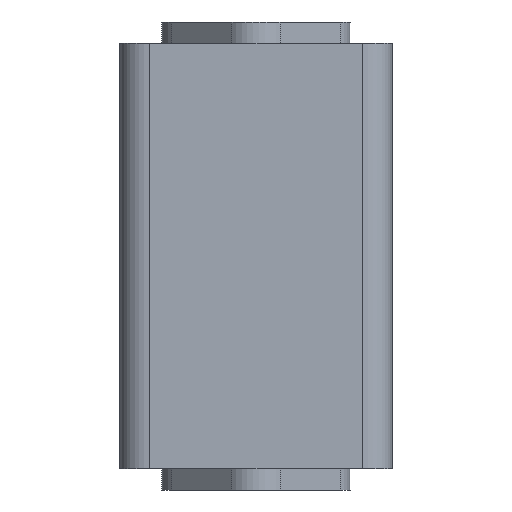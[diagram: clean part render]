
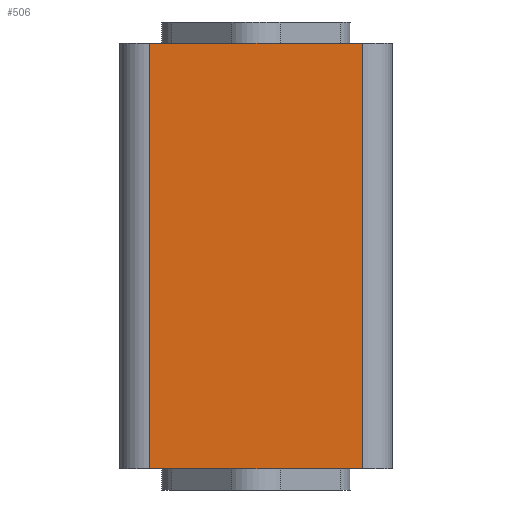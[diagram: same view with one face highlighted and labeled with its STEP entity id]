
A CAD part, front view. The second image highlights one B-rep face of the part: STEP entity #506.
In plain terms, the highlighted planar face has unit normal (0, -1, 0).
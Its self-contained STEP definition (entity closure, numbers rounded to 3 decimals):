
#448=CARTESIAN_POINT('',(12.5,-16.,50.0));
#449=VERTEX_POINT('',#448);
#457=CARTESIAN_POINT('',(12.5,-16.,0.0));
#458=VERTEX_POINT('',#457);
#459=CARTESIAN_POINT('',(12.5,-16.,0.0));
#460=DIRECTION('',(0.0,0.0,1.0));
#461=VECTOR('',#460,50.0);
#462=LINE('',#459,#461);
#463=EDGE_CURVE('',#458,#449,#462,.T.);
#476=CARTESIAN_POINT('',(12.5,-16.,0.0));
#477=DIRECTION('',(0.0,-1.0,0.0));
#478=DIRECTION('',(0.0,0.0,-1.0));
#479=AXIS2_PLACEMENT_3D('',#476,#477,#478);
#480=PLANE('',#479);
#481=CARTESIAN_POINT('',(-12.5,-16.,50.0));
#482=VERTEX_POINT('',#481);
#483=CARTESIAN_POINT('',(12.5,-16.,50.0));
#484=DIRECTION('',(-1.0,0.0,0.0));
#485=VECTOR('',#484,25.);
#486=LINE('',#483,#485);
#487=EDGE_CURVE('',#449,#482,#486,.T.);
#488=ORIENTED_EDGE('',*,*,#487,.T.);
#489=CARTESIAN_POINT('',(-12.5,-16.,0.0));
#490=VERTEX_POINT('',#489);
#491=CARTESIAN_POINT('',(-12.5,-16.,0.0));
#492=DIRECTION('',(0.0,0.0,1.0));
#493=VECTOR('',#492,50.0);
#494=LINE('',#491,#493);
#495=EDGE_CURVE('',#490,#482,#494,.T.);
#496=ORIENTED_EDGE('',*,*,#495,.F.);
#497=CARTESIAN_POINT('',(-12.5,-16.,0.0));
#498=DIRECTION('',(1.0,0.0,0.0));
#499=VECTOR('',#498,25.);
#500=LINE('',#497,#499);
#501=EDGE_CURVE('',#490,#458,#500,.T.);
#502=ORIENTED_EDGE('',*,*,#501,.T.);
#503=ORIENTED_EDGE('',*,*,#463,.T.);
#504=EDGE_LOOP('',(#488,#496,#502,#503));
#505=FACE_OUTER_BOUND('',#504,.T.);
#506=ADVANCED_FACE('',(#505),#480,.T.);
